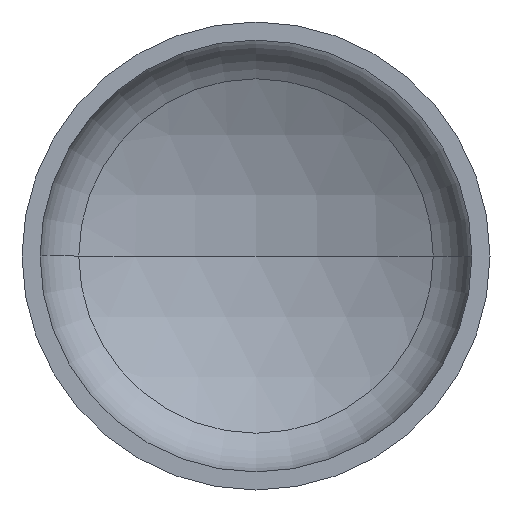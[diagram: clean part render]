
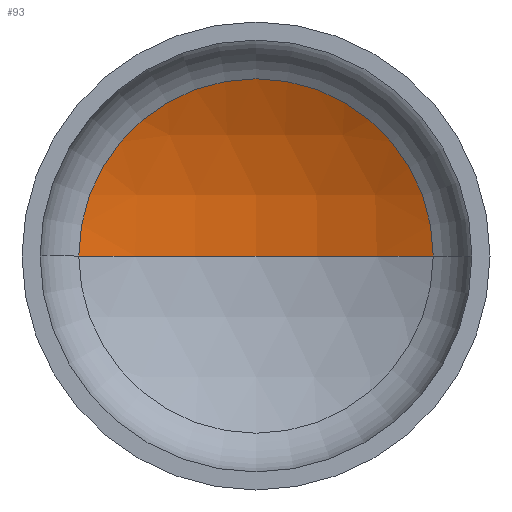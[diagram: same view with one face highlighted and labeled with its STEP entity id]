
A CAD part, front view. The second image highlights one B-rep face of the part: STEP entity #93.
In plain terms, the highlighted spherical face has radius 560 mm.
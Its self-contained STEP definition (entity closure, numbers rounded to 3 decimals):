
#2 = DIRECTION ( 'NONE',  ( 0., 0., 1. ) ) ;
#13 = CARTESIAN_POINT ( 'NONE',  ( -265.067, 181.897, 0. ) ) ;
#34 = AXIS2_PLACEMENT_3D ( 'NONE', #69, #2, #380 ) ;
#36 = AXIS2_PLACEMENT_3D ( 'NONE', #351, #251, #168 ) ;
#37 = AXIS2_PLACEMENT_3D ( 'NONE', #133, #103, #305 ) ;
#40 = AXIS2_PLACEMENT_3D ( 'NONE', #249, #171, #164 ) ;
#55 = CARTESIAN_POINT ( 'NONE',  ( 265.067, 181.897, 0. ) ) ;
#69 = CARTESIAN_POINT ( 'NONE',  ( 0., -311.398, 0. ) ) ;
#86 = EDGE_CURVE ( 'NONE', #255, #225, #112, .T. ) ;
#93 = ADVANCED_FACE ( 'NONE', ( #185 ), #328, .F. ) ;
#98 = EDGE_CURVE ( 'NONE', #148, #255, #101, .T. ) ;
#101 = CIRCLE ( 'NONE', #37, 560. ) ;
#103 = DIRECTION ( 'NONE',  ( 0., 0., -1. ) ) ;
#108 = EDGE_CURVE ( 'NONE', #148, #225, #407, .T. ) ;
#112 = CIRCLE ( 'NONE', #40, 265.067 ) ;
#133 = CARTESIAN_POINT ( 'NONE',  ( 0., -311.398, 0. ) ) ;
#144 = CARTESIAN_POINT ( 'NONE',  ( 0., 248.602, 0. ) ) ;
#148 = VERTEX_POINT ( 'NONE', #144 ) ;
#164 = DIRECTION ( 'NONE',  ( 1., 0., 0. ) ) ;
#168 = DIRECTION ( 'NONE',  ( -1., 0., 0. ) ) ;
#171 = DIRECTION ( 'NONE',  ( 0., -1., 0. ) ) ;
#185 = FACE_OUTER_BOUND ( 'NONE', #302, .T. ) ;
#220 = ORIENTED_EDGE ( 'NONE', *, *, #98, .T. ) ;
#225 = VERTEX_POINT ( 'NONE', #13 ) ;
#247 = ORIENTED_EDGE ( 'NONE', *, *, #108, .F. ) ;
#249 = CARTESIAN_POINT ( 'NONE',  ( 0., 181.897, 0. ) ) ;
#251 = DIRECTION ( 'NONE',  ( 0., 0., -1. ) ) ;
#255 = VERTEX_POINT ( 'NONE', #55 ) ;
#261 = ORIENTED_EDGE ( 'NONE', *, *, #86, .T. ) ;
#302 = EDGE_LOOP ( 'NONE', ( #247, #220, #261 ) ) ;
#305 = DIRECTION ( 'NONE',  ( -1., 0., 0. ) ) ;
#328 = SPHERICAL_SURFACE ( 'NONE', #36, 560. ) ;
#351 = CARTESIAN_POINT ( 'NONE',  ( 0., -311.398, 0. ) ) ;
#380 = DIRECTION ( 'NONE',  ( 1., 0., 0. ) ) ;
#407 = CIRCLE ( 'NONE', #34, 560. ) ;
